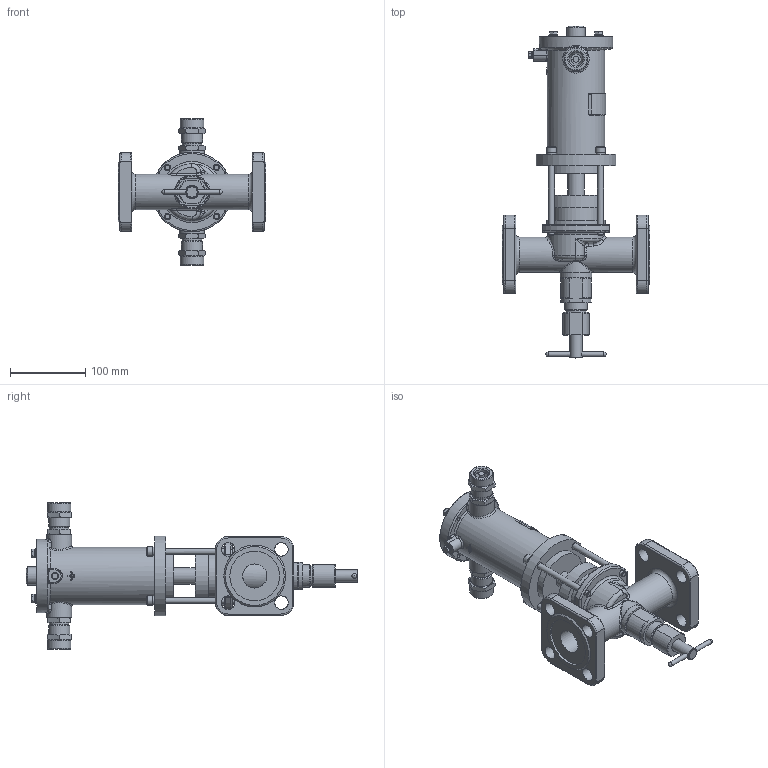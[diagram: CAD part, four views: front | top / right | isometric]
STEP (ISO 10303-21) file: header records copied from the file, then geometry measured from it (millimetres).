
FILE_DESCRIPTION(('STEP AP203'), '1');
FILE_NAME('ÑÅÍÑ-ÏÐ DN32PN25-200Ñ-ÑÂ.stp', '2018-10-09T07:59:28', ('Îðëîâ Å.Â.'), ('ÎÎÎ ÍÏÏ Ñåíñîð'), 'ASCON STEP Converter 1.3', 'Kompas 3D', '');
FILE_SCHEMA(('CONFIG_CONTROL_DESIGN','SUPPORT_RESOURCE_SCHEMA'));
Length unit declared in the file: millimetre
Products named in the file (1): 31
Bounding box: 196 x 440.5 x 194 mm (x, y, z)
Volume: 1263184.5 mm3; surface area: 363326.1 mm2
Topology: 3 solids, 20 shells, 2004 faces, 5275 edges, 3417 vertices
Faces by surface type: cylinder 1020, plane 731, cone 133, torus 52, bspline 50, extrusion 16, sphere 2
Full cylindrical faces by diameter (mm): 3.5 x2, 4.134 x1, 4.917 x4, 5 x1, 6 x13, 6.2 x1, 6.5 x4, 8 x12, 8.2 x1, 9 x5, 10 x1, 11 x1, 12 x4, 13 x6, 16 x3, 17 x2, 18 x9, 18.632 x2, 19.9 x1, 20 x2, 21 x1, 22 x3, 22.376 x2, 23 x1, 23.5 x2, 24 x3, 24.5 x2, 26 x4, 26.376 x2, 27.8 x1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
Entity records: 76653 total; most frequent: CARTESIAN_POINT 26120, DIRECTION 10945, ORIENTED_EDGE 10476, EDGE_CURVE 5238, AXIS2_PLACEMENT_3D 4213, VERTEX_POINT 3409, VECTOR 2519, LINE 2503
